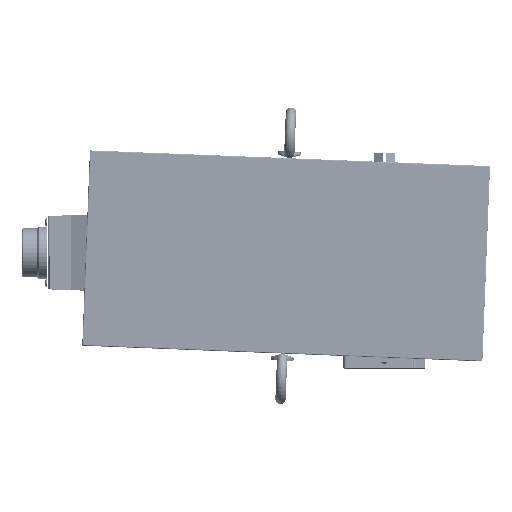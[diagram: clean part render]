
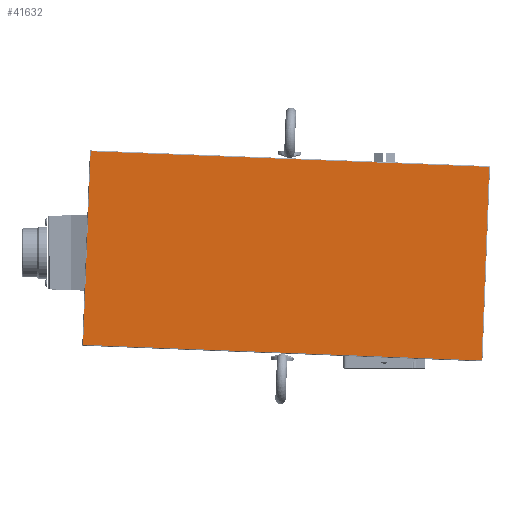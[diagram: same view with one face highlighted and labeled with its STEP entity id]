
A CAD part, top view. The second image highlights one B-rep face of the part: STEP entity #41632.
In plain terms, the highlighted planar face has unit normal (0, 0, 1).
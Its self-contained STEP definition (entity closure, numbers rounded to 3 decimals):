
#41593=CARTESIAN_POINT('',(-57.501,64.806,416.601));
#41594=DIRECTION('',(0.039,0.999,0.));
#41595=DIRECTION('',(0.,-0.,1.));
#41596=AXIS2_PLACEMENT_3D('',#41593,#41595,#41594);
#41597=PLANE('',#41596);
#41598=CARTESIAN_POINT('',(-183.675,-51.832,416.601));
#41599=VERTEX_POINT('',#41598);
#41600=CARTESIAN_POINT('',(59.137,-61.368,416.601));
#41601=VERTEX_POINT('',#41600);
#41602=CARTESIAN_POINT('',(-183.675,-51.832,416.601));
#41603=DIRECTION('',(0.999,-0.039,0.));
#41604=VECTOR('',#41603,243.);
#41605=LINE('',#41602,#41604);
#41606=EDGE_CURVE('',#41599,#41601,#41605,.T.);
#41607=ORIENTED_EDGE('E3388',*,*,#41606,.T.);
#41608=CARTESIAN_POINT('',(63.768,56.541,416.601));
#41609=VERTEX_POINT('',#41608);
#41610=CARTESIAN_POINT('',(59.137,-61.368,416.601));
#41611=DIRECTION('',(0.039,0.999,0.));
#41612=VECTOR('',#41611,118.);
#41613=LINE('',#41610,#41612);
#41614=EDGE_CURVE('',#41601,#41609,#41613,.T.);
#41615=ORIENTED_EDGE('E3389',*,*,#41614,.T.);
#41616=CARTESIAN_POINT('',(-179.045,66.077,416.601));
#41617=VERTEX_POINT('',#41616);
#41618=CARTESIAN_POINT('',(63.768,56.541,416.601));
#41619=DIRECTION('',(-0.999,0.039,0.));
#41620=VECTOR('',#41619,243.);
#41621=LINE('',#41618,#41620);
#41622=EDGE_CURVE('',#41609,#41617,#41621,.T.);
#41623=ORIENTED_EDGE('E3390',*,*,#41622,.T.);
#41624=CARTESIAN_POINT('',(-179.045,66.077,416.601));
#41625=DIRECTION('',(-0.039,-0.999,0.));
#41626=VECTOR('',#41625,118.);
#41627=LINE('',#41624,#41626);
#41628=EDGE_CURVE('',#41617,#41599,#41627,.T.);
#41629=ORIENTED_EDGE('E3391',*,*,#41628,.T.);
#41630=EDGE_LOOP('',(#41607,#41615,#41623,#41629));
#41631=FACE_OUTER_BOUND('',#41630,.T.);
#41632=ADVANCED_FACE('F1302',(#41631),#41597,.T.);
